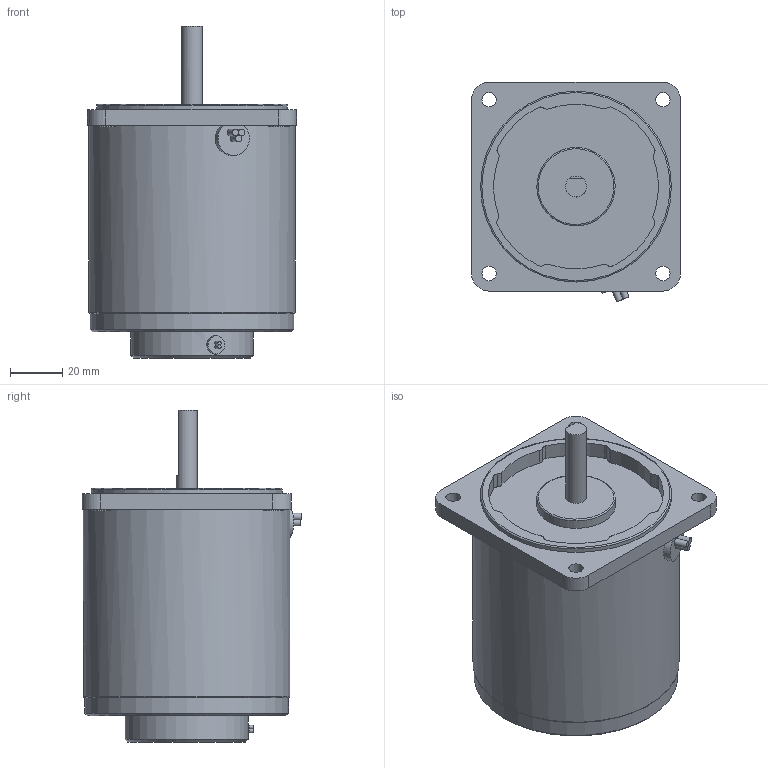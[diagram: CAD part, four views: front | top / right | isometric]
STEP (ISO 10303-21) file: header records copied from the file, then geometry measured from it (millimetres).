
FILE_DESCRIPTION((''),'2;1');
FILE_NAME('E:\2공장-도면\3D\표준형 3D(민규)\step file\SU,SP\K8IS25Nㅁ-Sㅁ.stp','2014-11-14T14:02:40',('AHN'),(''),'Autodesk Inventor 2012','Autodesk Inventor 2012','');
FILE_SCHEMA(('CONFIG_CONTROL_DESIGN'));
Length unit declared in the file: millimetre
Products named in the file (1): K8IS25Nㅁ-Sㅁ
Bounding box: 80 x 84.13 x 127 mm (x, y, z)
Volume: 434368.7 mm3; surface area: 38697.7 mm2
Topology: 1 solids, 1 shells, 84 faces, 194 edges, 120 vertices
Faces by surface type: cylinder 52, plane 27, torus 3, cone 2
Full cylindrical faces by diameter (mm): 1.4 x2, 5.5 x4, 7 x1, 8 x5, 30 x1, 47 x1, 73 x1, 78 x1, 79 x1
Entity records: 2356 total; most frequent: DIRECTION 443, CARTESIAN_POINT 430, ORIENTED_EDGE 336, AXIS2_PLACEMENT_3D 192, EDGE_CURVE 168, EDGE_LOOP 124, VERTEX_POINT 114, CIRCLE 107
